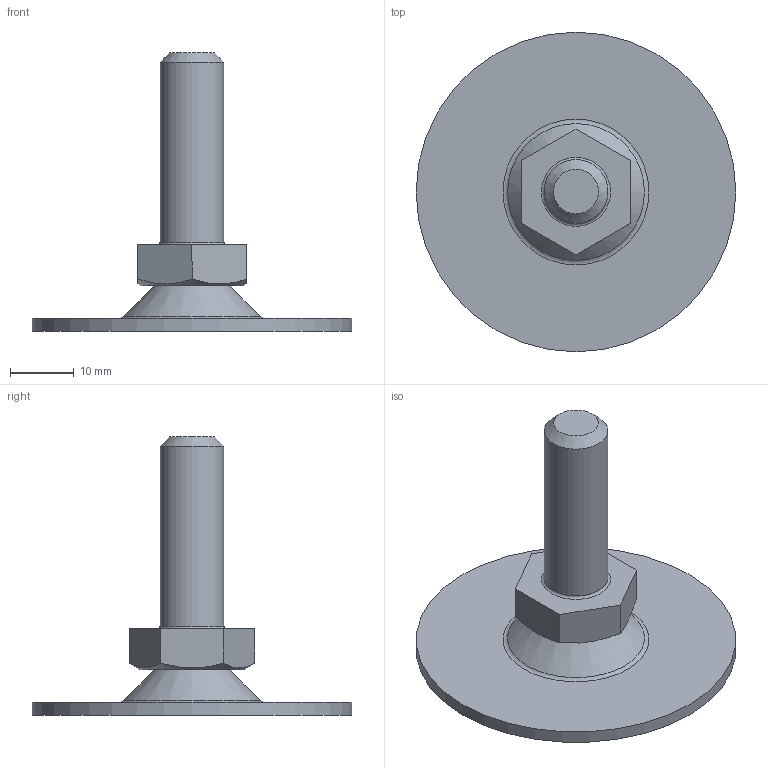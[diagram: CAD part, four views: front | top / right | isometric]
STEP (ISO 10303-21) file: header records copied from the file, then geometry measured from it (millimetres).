
FILE_DESCRIPTION(('STEP AP203'), '1');
FILE_NAME('A00050.1051016', '', ('UNSPECIFIED'), ('UNSPECIFIED'), 'C3D Converter', 'C3D Toolkit', '');
FILE_SCHEMA(('CONFIG_CONTROL_DESIGN'));
Length unit declared in the file: millimetre
Products named in the file (4): A00050.1051030; A00050.1050
Assembly tree (3 placements, depth 2):
  A00050.1051030
    A00050.1050
    (unnamed)
    (unnamed)
Bounding box: 50 x 50 x 43.52 mm (x, y, z)
Volume: 8032.4 mm3; surface area: 6647.8 mm2
Topology: 3 solids, 3 shells, 58 faces, 130 edges, 82 vertices
Faces by surface type: plane 28, torus 8, bspline 8, cone 7, cylinder 6, sphere 1
Full cylindrical faces by diameter (mm): 3.3 x1, 4 x1, 4.5 x1, 8 x1, 10 x1, 50 x1
Entity records: 2171 total; most frequent: CARTESIAN_POINT 784, DIRECTION 242, ORIENTED_EDGE 214, EDGE_CURVE 107, AXIS2_PLACEMENT_3D 95, EDGE_LOOP 86, VERTEX_POINT 81, ADVANCED_FACE 58
